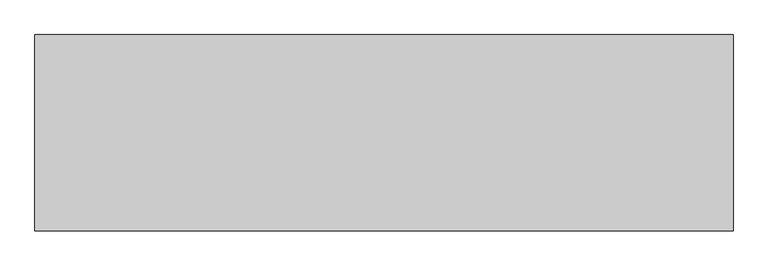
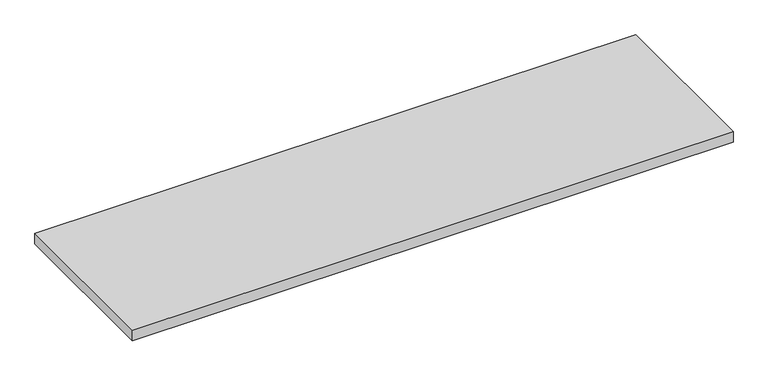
"""IFC4 building model written with IfcOpenShell, lengths in millimetres: furniture geometry, Haworth_Masters_CommonTop : 18d 64w 1h - Inset Style."""

from ifc_helpers import new_model, si_unit, frame, origin, place, context, project, spatial, polyline, outline, extrude, source, transform, mapped, element, save


def furniture_ea5179c6(model_context):
    return source(origin(), model_context, "Body", "SweptSolid", [
        extrude(outline(polyline([(812.8, -228.6), (-812.8, -228.6), (-812.8, 228.6), (812.8, 228.6), (812.8, -228.6)])), frame((0.0, 0.0, 706.4375), z_axis=(0.0, 0.0, 1.0), x_axis=(1.0, 0.0, 0.0)), (0.0, 0.0, 1.0), 30.1625),
    ])


if __name__ == "__main__":
    model = new_model("IFC4")
    model_context = context("Model", 3, world=origin())
    ifc_project = project(units=[si_unit("LENGTHUNIT", "METRE", prefix="MILLI")], contexts=[model_context])
    site = spatial("IfcSite", under=ifc_project)
    building = spatial("IfcBuilding", under=site)
    placement = place(None, origin())
    furniture_shape = furniture_ea5179c6(model_context)
    element("IfcFurniture", 1, ObjectType="Haworth_Masters_CommonTop : 18d 64w 1h - Inset Style", at=placement, inside=building, context=model_context, shape_type="MappedRepresentation", body=[
        mapped(furniture_shape, transform((0.0, 0.0, 0.0), x_axis=(1.0, 0.0, 0.0), y_axis=(0.0, 1.0, 0.0), z_axis=(0.0, 0.0, 1.0))),
    ])
    save(model, "model.ifc")
